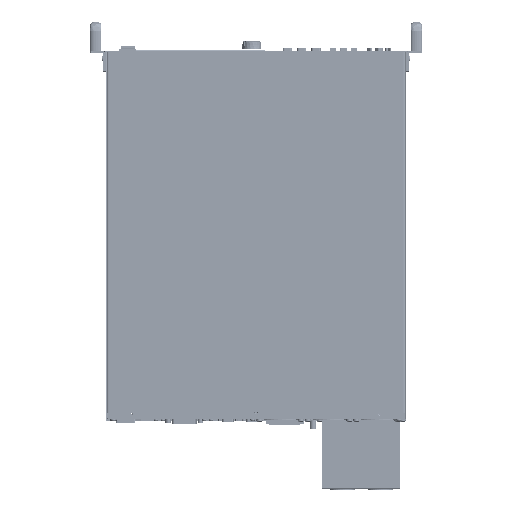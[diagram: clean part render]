
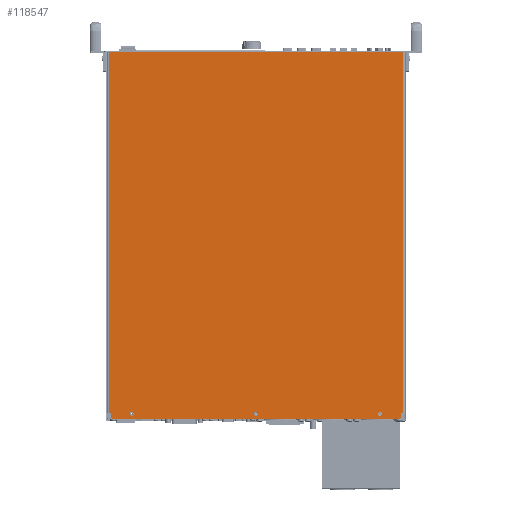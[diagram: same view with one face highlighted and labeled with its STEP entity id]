
A CAD part, front view. The second image highlights one B-rep face of the part: STEP entity #118547.
In plain terms, the highlighted planar face has unit normal (0, -1, 0).
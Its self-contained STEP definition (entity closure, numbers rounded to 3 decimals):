
#8220 = CARTESIAN_POINT ( 'NONE',  ( -214.711, -1.098, 294.32 ) ) ;
#8222 = DIRECTION ( 'NONE',  ( -1., 0., 0. ) ) ;
#22671 = ORIENTED_EDGE ( 'NONE', *, *, #86027, .F. ) ;
#24581 = LINE ( 'NONE', #120850, #24591 ) ;
#24591 = VECTOR ( 'NONE', #120851, 1000. ) ;
#24594 = LINE ( 'NONE', #120854, #24602 ) ;
#24602 = VECTOR ( 'NONE', #120855, 1000. ) ;
#24921 = LINE ( 'NONE', #8220, #24930 ) ;
#24930 = VECTOR ( 'NONE', #8222, 1000. ) ;
#27230 = AXIS2_PLACEMENT_3D ( 'NONE', #66524, #66526, #66528 ) ;
#27277 = AXIS2_PLACEMENT_3D ( 'NONE', #64328, #64329, #64330 ) ;
#29232 = LINE ( 'NONE', #30403, #29234 ) ;
#29234 = VECTOR ( 'NONE', #30401, 1000. ) ;
#29258 = CIRCLE ( 'NONE', #105116, 3. ) ;
#29261 = LINE ( 'NONE', #30419, #29271 ) ;
#29271 = VECTOR ( 'NONE', #30435, 1000. ) ;
#29281 = LINE ( 'NONE', #30446, #29290 ) ;
#29290 = VECTOR ( 'NONE', #30442, 1000. ) ;
#29319 = CIRCLE ( 'NONE', #105148, 3. ) ;
#29359 = CIRCLE ( 'NONE', #105146, 3. ) ;
#29360 = LINE ( 'NONE', #30509, #29364 ) ;
#29364 = VECTOR ( 'NONE', #30510, 1000. ) ;
#29431 = CIRCLE ( 'NONE', #105170, 3. ) ;
#30401 = DIRECTION ( 'NONE',  ( 0.707, 0., -0.707 ) ) ;
#30403 = CARTESIAN_POINT ( 'NONE',  ( -206.211, -1.098, -237.38 ) ) ;
#30419 = CARTESIAN_POINT ( 'NONE',  ( -211.711, -1.098, -227.68 ) ) ;
#30430 = CARTESIAN_POINT ( 'NONE',  ( -178.211, -1.098, -229.38 ) ) ;
#30431 = DIRECTION ( 'NONE',  ( 0., -1., 0. ) ) ;
#30432 = DIRECTION ( 'NONE',  ( 0., 0., -1. ) ) ;
#30435 = DIRECTION ( 'NONE',  ( 0., 0., 1. ) ) ;
#30442 = DIRECTION ( 'NONE',  ( -1., 0., 0. ) ) ;
#30446 = CARTESIAN_POINT ( 'NONE',  ( -214.711, -1.098, -227.68 ) ) ;
#30509 = CARTESIAN_POINT ( 'NONE',  ( -208.211, -1.098, -227.68 ) ) ;
#30510 = DIRECTION ( 'NONE',  ( 0., 0., -1. ) ) ;
#30514 = CARTESIAN_POINT ( 'NONE',  ( 1.789, -1.098, -229.38 ) ) ;
#30515 = DIRECTION ( 'NONE',  ( 0., -1., 0. ) ) ;
#30516 = DIRECTION ( 'NONE',  ( 0., 0., -1. ) ) ;
#30519 = CARTESIAN_POINT ( 'NONE',  ( 181.789, -1.098, -229.38 ) ) ;
#30520 = DIRECTION ( 'NONE',  ( 0., -1., 0. ) ) ;
#30521 = DIRECTION ( 'NONE',  ( 0., 0., -1. ) ) ;
#30579 = CARTESIAN_POINT ( 'NONE',  ( -178.211, -1.098, -229.38 ) ) ;
#30580 = DIRECTION ( 'NONE',  ( 0., -1., 0. ) ) ;
#30581 = DIRECTION ( 'NONE',  ( 0., 0., -1. ) ) ;
#35090 = EDGE_CURVE ( 'NONE', #51343, #51323, #97798, .T. ) ;
#35820 = EDGE_CURVE ( 'NONE', #71141, #71148, #104586, .T. ) ;
#35980 = EDGE_CURVE ( 'NONE', #71143, #71150, #104776, .T. ) ;
#43641 = ORIENTED_EDGE ( 'NONE', *, *, #35980, .F. ) ;
#43645 = ORIENTED_EDGE ( 'NONE', *, *, #35820, .F. ) ;
#43649 = ORIENTED_EDGE ( 'NONE', *, *, #86020, .F. ) ;
#43652 = ORIENTED_EDGE ( 'NONE', *, *, #85954, .F. ) ;
#43656 = ORIENTED_EDGE ( 'NONE', *, *, #86079, .F. ) ;
#43660 = ORIENTED_EDGE ( 'NONE', *, *, #74404, .T. ) ;
#43664 = ORIENTED_EDGE ( 'NONE', *, *, #85957, .F. ) ;
#43933 = ORIENTED_EDGE ( 'NONE', *, *, #85963, .F. ) ;
#44128 = ORIENTED_EDGE ( 'NONE', *, *, #86022, .T. ) ;
#44153 = ORIENTED_EDGE ( 'NONE', *, *, #85945, .T. ) ;
#44230 = ORIENTED_EDGE ( 'NONE', *, *, #74108, .F. ) ;
#44391 = ORIENTED_EDGE ( 'NONE', *, *, #35090, .F. ) ;
#44397 = ORIENTED_EDGE ( 'NONE', *, *, #74168, .F. ) ;
#44402 = ORIENTED_EDGE ( 'NONE', *, *, #74140, .F. ) ;
#44430 = ORIENTED_EDGE ( 'NONE', *, *, #74172, .T. ) ;
#50330 = LINE ( 'NONE', #120783, #50336 ) ;
#50336 = VECTOR ( 'NONE', #120787, 1000. ) ;
#50376 = LINE ( 'NONE', #120822, #50382 ) ;
#50382 = VECTOR ( 'NONE', #120823, 1000. ) ;
#51302 = VERTEX_POINT ( 'NONE', #52665 ) ;
#51303 = VERTEX_POINT ( 'NONE', #52668 ) ;
#51312 = VERTEX_POINT ( 'NONE', #52699 ) ;
#51323 = VERTEX_POINT ( 'NONE', #52737 ) ;
#51324 = VERTEX_POINT ( 'NONE', #52739 ) ;
#51333 = VERTEX_POINT ( 'NONE', #52771 ) ;
#51338 = VERTEX_POINT ( 'NONE', #52788 ) ;
#51339 = VERTEX_POINT ( 'NONE', #52791 ) ;
#51340 = VERTEX_POINT ( 'NONE', #52794 ) ;
#51341 = VERTEX_POINT ( 'NONE', #52798 ) ;
#51342 = VERTEX_POINT ( 'NONE', #52802 ) ;
#51343 = VERTEX_POINT ( 'NONE', #52805 ) ;
#52665 = CARTESIAN_POINT ( 'NONE',  ( 209.789, -1.098, -237.38 ) ) ;
#52668 = CARTESIAN_POINT ( 'NONE',  ( 211.789, -1.098, -235.38 ) ) ;
#52699 = CARTESIAN_POINT ( 'NONE',  ( 211.789, -1.098, -227.68 ) ) ;
#52737 = CARTESIAN_POINT ( 'NONE',  ( 215.289, -1.098, -227.68 ) ) ;
#52739 = CARTESIAN_POINT ( 'NONE',  ( -211.711, -1.098, -227.68 ) ) ;
#52771 = CARTESIAN_POINT ( 'NONE',  ( -206.211, -1.098, -237.38 ) ) ;
#52788 = CARTESIAN_POINT ( 'NONE',  ( -208.211, -1.098, -227.68 ) ) ;
#52791 = CARTESIAN_POINT ( 'NONE',  ( -208.211, -1.098, -235.38 ) ) ;
#52794 = CARTESIAN_POINT ( 'NONE',  ( -178.211, -1.098, -232.38 ) ) ;
#52798 = CARTESIAN_POINT ( 'NONE',  ( -211.711, -1.098, 294.32 ) ) ;
#52802 = CARTESIAN_POINT ( 'NONE',  ( -178.211, -1.098, -226.38 ) ) ;
#52805 = CARTESIAN_POINT ( 'NONE',  ( 215.289, -1.098, 294.32 ) ) ;
#64328 = CARTESIAN_POINT ( 'NONE',  ( 181.789, -1.098, -229.38 ) ) ;
#64329 = DIRECTION ( 'NONE',  ( 0., -1., 0. ) ) ;
#64330 = DIRECTION ( 'NONE',  ( 0., 0., -1. ) ) ;
#66524 = CARTESIAN_POINT ( 'NONE',  ( 1.789, -1.098, -229.38 ) ) ;
#66526 = DIRECTION ( 'NONE',  ( 0., -1., 0. ) ) ;
#66528 = DIRECTION ( 'NONE',  ( 0., 0., -1. ) ) ;
#67973 = CARTESIAN_POINT ( 'NONE',  ( 215.289, -1.098, 294.32 ) ) ;
#67987 = DIRECTION ( 'NONE',  ( 0., 0., -1. ) ) ;
#71141 = VERTEX_POINT ( 'NONE', #120640 ) ;
#71143 = VERTEX_POINT ( 'NONE', #120641 ) ;
#71148 = VERTEX_POINT ( 'NONE', #120645 ) ;
#71150 = VERTEX_POINT ( 'NONE', #120646 ) ;
#74108 = EDGE_CURVE ( 'NONE', #51302, #51333, #50330, .T. ) ;
#74140 = EDGE_CURVE ( 'NONE', #51323, #51312, #50376, .T. ) ;
#74168 = EDGE_CURVE ( 'NONE', #51312, #51303, #24581, .T. ) ;
#74172 = EDGE_CURVE ( 'NONE', #51302, #51303, #24594, .T. ) ;
#74364 = EDGE_LOOP ( 'NONE', ( #22671, #43641 ) ) ;
#74365 = EDGE_LOOP ( 'NONE', ( #43652, #43656 ) ) ;
#74368 = EDGE_LOOP ( 'NONE', ( #43649, #43645 ) ) ;
#74371 = EDGE_LOOP ( 'NONE', ( #44391, #43660, #43664, #43933, #44128, #44153, #44230, #44430, #44397, #44402 ) ) ;
#74404 = EDGE_CURVE ( 'NONE', #51343, #51341, #24921, .T. ) ;
#82947 = CARTESIAN_POINT ( 'NONE',  ( -214.711, -1.098, -227.68 ) ) ;
#82951 = PLANE ( 'NONE',  #96024 ) ;
#82953 = DIRECTION ( 'NONE',  ( 0., 1., 0. ) ) ;
#82955 = DIRECTION ( 'NONE',  ( 0., 0., 1. ) ) ;
#85945 = EDGE_CURVE ( 'NONE', #51339, #51333, #29232, .T. ) ;
#85954 = EDGE_CURVE ( 'NONE', #51340, #51342, #29258, .T. ) ;
#85957 = EDGE_CURVE ( 'NONE', #51324, #51341, #29261, .T. ) ;
#85963 = EDGE_CURVE ( 'NONE', #51338, #51324, #29281, .T. ) ;
#86020 = EDGE_CURVE ( 'NONE', #71148, #71141, #29359, .T. ) ;
#86022 = EDGE_CURVE ( 'NONE', #51338, #51339, #29360, .T. ) ;
#86027 = EDGE_CURVE ( 'NONE', #71150, #71143, #29319, .T. ) ;
#86079 = EDGE_CURVE ( 'NONE', #51342, #51340, #29431, .T. ) ;
#87631 = FACE_OUTER_BOUND ( 'NONE', #74371, .T. ) ;
#87643 = FACE_BOUND ( 'NONE', #74365, .T. ) ;
#87648 = FACE_BOUND ( 'NONE', #74364, .T. ) ;
#87656 = FACE_BOUND ( 'NONE', #74368, .T. ) ;
#96024 = AXIS2_PLACEMENT_3D ( 'NONE', #82947, #82953, #82955 ) ;
#97798 = LINE ( 'NONE', #67973, #97807 ) ;
#97807 = VECTOR ( 'NONE', #67987, 1000. ) ;
#104586 = CIRCLE ( 'NONE', #27230, 3. ) ;
#104776 = CIRCLE ( 'NONE', #27277, 3. ) ;
#105116 = AXIS2_PLACEMENT_3D ( 'NONE', #30430, #30431, #30432 ) ;
#105146 = AXIS2_PLACEMENT_3D ( 'NONE', #30514, #30515, #30516 ) ;
#105148 = AXIS2_PLACEMENT_3D ( 'NONE', #30519, #30520, #30521 ) ;
#105170 = AXIS2_PLACEMENT_3D ( 'NONE', #30579, #30580, #30581 ) ;
#118547 = ADVANCED_FACE ( 'NONE', ( #87648, #87656, #87643, #87631 ), #82951, .F. ) ;
#120640 = CARTESIAN_POINT ( 'NONE',  ( 1.789, -1.098, -226.38 ) ) ;
#120641 = CARTESIAN_POINT ( 'NONE',  ( 181.789, -1.098, -226.38 ) ) ;
#120645 = CARTESIAN_POINT ( 'NONE',  ( 1.789, -1.098, -232.38 ) ) ;
#120646 = CARTESIAN_POINT ( 'NONE',  ( 181.789, -1.098, -232.38 ) ) ;
#120783 = CARTESIAN_POINT ( 'NONE',  ( 211.789, -1.098, -237.38 ) ) ;
#120787 = DIRECTION ( 'NONE',  ( -1., 0., 0. ) ) ;
#120822 = CARTESIAN_POINT ( 'NONE',  ( -214.711, -1.098, -227.68 ) ) ;
#120823 = DIRECTION ( 'NONE',  ( -1., 0., 0. ) ) ;
#120850 = CARTESIAN_POINT ( 'NONE',  ( 211.789, -1.098, -227.68 ) ) ;
#120851 = DIRECTION ( 'NONE',  ( 0., 0., -1. ) ) ;
#120854 = CARTESIAN_POINT ( 'NONE',  ( 211.789, -1.098, -235.38 ) ) ;
#120855 = DIRECTION ( 'NONE',  ( 0.707, 0., 0.707 ) ) ;
